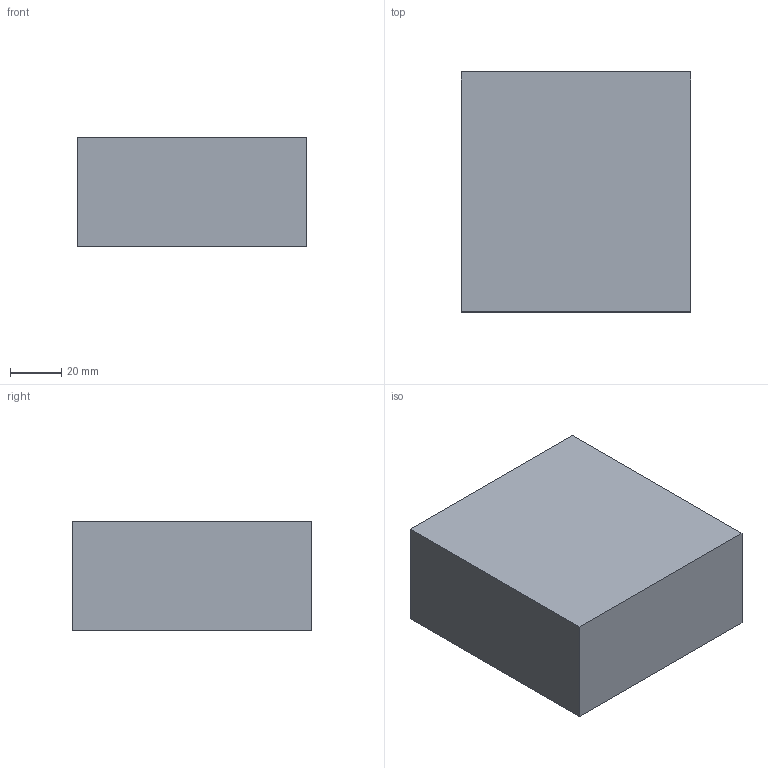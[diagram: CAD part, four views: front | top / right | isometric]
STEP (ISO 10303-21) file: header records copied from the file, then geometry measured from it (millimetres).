
FILE_DESCRIPTION(('Open CASCADE Model'),'2;1');
FILE_NAME('adcs_boards','2026-08-12T02:42:45',('Author'),('Open CASCADE' ),'Open CASCADE STEP processor 7.9','build123d','Unknown');
FILE_SCHEMA(('AUTOMOTIVE_DESIGN { 1 0 10303 214 1 1 1 1 }'));
Length unit declared in the file: millimetre
Products named in the file (3): adcs_boards; COMPOUND
Assembly tree (2 placements, depth 2):
  adcs_boards
    COMPOUND
    COMPOUND
Bounding box: 90 x 94 x 43 mm (x, y, z)
Volume: 127632 mm3; surface area: 76456 mm2
Topology: 2 solids, 3 shells, 18 faces, 36 edges, 24 vertices
Faces by surface type: plane 18
Entity records: 970 total; most frequent: CARTESIAN_POINT 153, DIRECTION 150, LINE 108, VECTOR 108, ORIENTED_EDGE 72, PCURVE 72, DEFINITIONAL_REPRESENTATION 72, EDGE_CURVE 36
